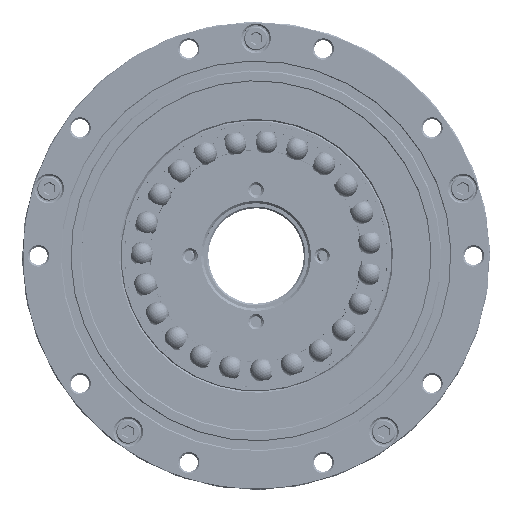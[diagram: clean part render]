
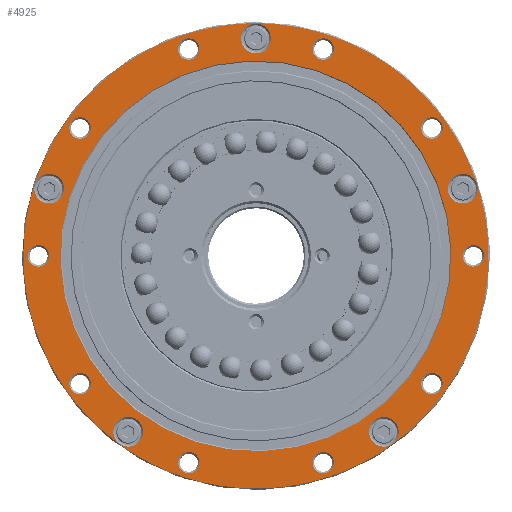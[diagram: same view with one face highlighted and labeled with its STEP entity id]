
A CAD part, top view. The second image highlights one B-rep face of the part: STEP entity #4925.
In plain terms, the highlighted planar face has unit normal (0, 0, 1).
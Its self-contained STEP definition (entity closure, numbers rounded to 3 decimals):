
#4354=PLANE('',#15423);
#4925=ADVANCED_FACE('',(#6135,#6136,#6137,#6138,#6139,#6140,#6141,#6142,
#6143,#6144,#6145,#6146,#6147,#6148,#6149,#6150,#6151),#4354,.T.);
#6135=FACE_BOUND('',#7137,.T.);
#6136=FACE_BOUND('',#7138,.T.);
#6137=FACE_BOUND('',#7139,.T.);
#6138=FACE_BOUND('',#7140,.T.);
#6139=FACE_BOUND('',#7141,.T.);
#6140=FACE_BOUND('',#7142,.T.);
#6141=FACE_BOUND('',#7143,.T.);
#6142=FACE_BOUND('',#7144,.T.);
#6143=FACE_BOUND('',#7145,.T.);
#6144=FACE_BOUND('',#7146,.T.);
#6145=FACE_BOUND('',#7147,.T.);
#6146=FACE_BOUND('',#7148,.T.);
#6147=FACE_BOUND('',#7149,.T.);
#6148=FACE_BOUND('',#7150,.T.);
#6149=FACE_BOUND('',#7151,.T.);
#6150=FACE_BOUND('',#7152,.T.);
#6151=FACE_BOUND('',#7153,.T.);
#7137=EDGE_LOOP('',(#9092));
#7138=EDGE_LOOP('',(#9093));
#7139=EDGE_LOOP('',(#9094));
#7140=EDGE_LOOP('',(#9095));
#7141=EDGE_LOOP('',(#9096));
#7142=EDGE_LOOP('',(#9097));
#7143=EDGE_LOOP('',(#9098));
#7144=EDGE_LOOP('',(#9099));
#7145=EDGE_LOOP('',(#9100));
#7146=EDGE_LOOP('',(#9101));
#7147=EDGE_LOOP('',(#9102));
#7148=EDGE_LOOP('',(#9103));
#7149=EDGE_LOOP('',(#9104));
#7150=EDGE_LOOP('',(#9105));
#7151=EDGE_LOOP('',(#9106));
#7152=EDGE_LOOP('',(#9107));
#7153=EDGE_LOOP('',(#9108));
#9092=ORIENTED_EDGE('',*,*,#13095,.T.);
#9093=ORIENTED_EDGE('',*,*,#13096,.T.);
#9094=ORIENTED_EDGE('',*,*,#13097,.T.);
#9095=ORIENTED_EDGE('',*,*,#13098,.T.);
#9096=ORIENTED_EDGE('',*,*,#13099,.T.);
#9097=ORIENTED_EDGE('',*,*,#13100,.T.);
#9098=ORIENTED_EDGE('',*,*,#13101,.T.);
#9099=ORIENTED_EDGE('',*,*,#13102,.T.);
#9100=ORIENTED_EDGE('',*,*,#13103,.T.);
#9101=ORIENTED_EDGE('',*,*,#13104,.T.);
#9102=ORIENTED_EDGE('',*,*,#13105,.T.);
#9103=ORIENTED_EDGE('',*,*,#13106,.T.);
#9104=ORIENTED_EDGE('',*,*,#13107,.T.);
#9105=ORIENTED_EDGE('',*,*,#13108,.T.);
#9106=ORIENTED_EDGE('',*,*,#13109,.T.);
#9107=ORIENTED_EDGE('',*,*,#13110,.T.);
#9108=ORIENTED_EDGE('',*,*,#13111,.T.);
#11681=VERTEX_POINT('',#99385);
#11682=VERTEX_POINT('',#99387);
#11683=VERTEX_POINT('',#99389);
#11684=VERTEX_POINT('',#99391);
#11685=VERTEX_POINT('',#99393);
#11686=VERTEX_POINT('',#99395);
#11687=VERTEX_POINT('',#99397);
#11688=VERTEX_POINT('',#99399);
#11689=VERTEX_POINT('',#99401);
#11690=VERTEX_POINT('',#99403);
#11691=VERTEX_POINT('',#99405);
#11692=VERTEX_POINT('',#99407);
#11693=VERTEX_POINT('',#99409);
#11694=VERTEX_POINT('',#99411);
#11695=VERTEX_POINT('',#99413);
#11696=VERTEX_POINT('',#99415);
#11697=VERTEX_POINT('',#99417);
#13095=EDGE_CURVE('',#11681,#11681,#14433,.T.);
#13096=EDGE_CURVE('',#11682,#11682,#14434,.T.);
#13097=EDGE_CURVE('',#11683,#11683,#14435,.T.);
#13098=EDGE_CURVE('',#11684,#11684,#14436,.T.);
#13099=EDGE_CURVE('',#11685,#11685,#14437,.T.);
#13100=EDGE_CURVE('',#11686,#11686,#14438,.T.);
#13101=EDGE_CURVE('',#11687,#11687,#14439,.T.);
#13102=EDGE_CURVE('',#11688,#11688,#14440,.T.);
#13103=EDGE_CURVE('',#11689,#11689,#14441,.T.);
#13104=EDGE_CURVE('',#11690,#11690,#14442,.T.);
#13105=EDGE_CURVE('',#11691,#11691,#14443,.T.);
#13106=EDGE_CURVE('',#11692,#11692,#14444,.T.);
#13107=EDGE_CURVE('',#11693,#11693,#14445,.T.);
#13108=EDGE_CURVE('',#11694,#11694,#14446,.T.);
#13109=EDGE_CURVE('',#11695,#11695,#14447,.T.);
#13110=EDGE_CURVE('',#11696,#11696,#14448,.T.);
#13111=EDGE_CURVE('',#11697,#11697,#14449,.T.);
#14433=CIRCLE('',#15406,4.5);
#14434=CIRCLE('',#15407,4.5);
#14435=CIRCLE('',#15408,4.5);
#14436=CIRCLE('',#15409,4.5);
#14437=CIRCLE('',#15410,3.25);
#14438=CIRCLE('',#15411,3.25);
#14439=CIRCLE('',#15412,3.25);
#14440=CIRCLE('',#15413,3.25);
#14441=CIRCLE('',#15414,3.25);
#14442=CIRCLE('',#15415,3.25);
#14443=CIRCLE('',#15416,3.25);
#14444=CIRCLE('',#15417,3.25);
#14445=CIRCLE('',#15418,3.25);
#14446=CIRCLE('',#15419,4.5);
#14447=CIRCLE('',#15420,3.25);
#14448=CIRCLE('',#15421,59.3);
#14449=CIRCLE('',#15422,70.6);
#15406=AXIS2_PLACEMENT_3D('',#99384,#17508,#17509);
#15407=AXIS2_PLACEMENT_3D('',#99386,#17510,#17511);
#15408=AXIS2_PLACEMENT_3D('',#99388,#17512,#17513);
#15409=AXIS2_PLACEMENT_3D('',#99390,#17514,#17515);
#15410=AXIS2_PLACEMENT_3D('',#99392,#17516,#17517);
#15411=AXIS2_PLACEMENT_3D('',#99394,#17518,#17519);
#15412=AXIS2_PLACEMENT_3D('',#99396,#17520,#17521);
#15413=AXIS2_PLACEMENT_3D('',#99398,#17522,#17523);
#15414=AXIS2_PLACEMENT_3D('',#99400,#17524,#17525);
#15415=AXIS2_PLACEMENT_3D('',#99402,#17526,#17527);
#15416=AXIS2_PLACEMENT_3D('',#99404,#17528,#17529);
#15417=AXIS2_PLACEMENT_3D('',#99406,#17530,#17531);
#15418=AXIS2_PLACEMENT_3D('',#99408,#17532,#17533);
#15419=AXIS2_PLACEMENT_3D('',#99410,#17534,#17535);
#15420=AXIS2_PLACEMENT_3D('',#99412,#17536,#17537);
#15421=AXIS2_PLACEMENT_3D('',#99414,#17538,#17539);
#15422=AXIS2_PLACEMENT_3D('',#99416,#17540,#17541);
#15423=AXIS2_PLACEMENT_3D('',#99418,#17542,#17543);
#17508=DIRECTION('',(0.,0.,-1.));
#17509=DIRECTION('',(1.,0.,0.));
#17510=DIRECTION('',(0.,0.,-1.));
#17511=DIRECTION('',(1.,0.,0.));
#17512=DIRECTION('',(0.,0.,-1.));
#17513=DIRECTION('',(1.,0.,0.));
#17514=DIRECTION('',(0.,0.,-1.));
#17515=DIRECTION('',(1.,0.,0.));
#17516=DIRECTION('',(0.,0.,-1.));
#17517=DIRECTION('',(1.,0.,0.));
#17518=DIRECTION('',(0.,0.,-1.));
#17519=DIRECTION('',(1.,0.,0.));
#17520=DIRECTION('',(0.,0.,-1.));
#17521=DIRECTION('',(1.,0.,0.));
#17522=DIRECTION('',(0.,0.,-1.));
#17523=DIRECTION('',(1.,0.,0.));
#17524=DIRECTION('',(0.,0.,-1.));
#17525=DIRECTION('',(1.,0.,0.));
#17526=DIRECTION('',(0.,0.,-1.));
#17527=DIRECTION('',(1.,0.,0.));
#17528=DIRECTION('',(0.,0.,-1.));
#17529=DIRECTION('',(1.,0.,0.));
#17530=DIRECTION('',(0.,0.,-1.));
#17531=DIRECTION('',(1.,0.,0.));
#17532=DIRECTION('',(0.,0.,-1.));
#17533=DIRECTION('',(1.,0.,0.));
#17534=DIRECTION('',(0.,0.,-1.));
#17535=DIRECTION('',(1.,0.,0.));
#17536=DIRECTION('',(0.,0.,-1.));
#17537=DIRECTION('',(1.,0.,0.));
#17538=DIRECTION('',(0.,0.,-1.));
#17539=DIRECTION('',(1.,0.,0.));
#17540=DIRECTION('',(0.,0.,1.));
#17541=DIRECTION('',(1.,0.,0.));
#17542=DIRECTION('',(0.,0.,1.));
#17543=DIRECTION('',(1.,0.,0.));
#99384=CARTESIAN_POINT('',(38.794,-53.395,0.));
#99385=CARTESIAN_POINT('',(43.294,-53.395,0.));
#99386=CARTESIAN_POINT('',(-38.794,-53.395,0.));
#99387=CARTESIAN_POINT('',(-34.294,-53.395,0.));
#99388=CARTESIAN_POINT('',(-62.77,20.395,0.));
#99389=CARTESIAN_POINT('',(-58.27,20.395,0.));
#99390=CARTESIAN_POINT('',(0.,66.,0.));
#99391=CARTESIAN_POINT('',(4.5,66.,0.));
#99392=CARTESIAN_POINT('',(53.395,-38.794,0.));
#99393=CARTESIAN_POINT('',(56.645,-38.794,0.));
#99394=CARTESIAN_POINT('',(20.395,-62.77,0.));
#99395=CARTESIAN_POINT('',(23.645,-62.77,0.));
#99396=CARTESIAN_POINT('',(-20.395,-62.77,0.));
#99397=CARTESIAN_POINT('',(-17.145,-62.77,0.));
#99398=CARTESIAN_POINT('',(-53.395,-38.794,0.));
#99399=CARTESIAN_POINT('',(-50.145,-38.794,0.));
#99400=CARTESIAN_POINT('',(-66.,0.,0.));
#99401=CARTESIAN_POINT('',(-62.75,0.,0.));
#99402=CARTESIAN_POINT('',(-53.395,38.794,0.));
#99403=CARTESIAN_POINT('',(-50.145,38.794,0.));
#99404=CARTESIAN_POINT('',(-20.395,62.77,0.));
#99405=CARTESIAN_POINT('',(-17.145,62.77,0.));
#99406=CARTESIAN_POINT('',(20.395,62.77,0.));
#99407=CARTESIAN_POINT('',(23.645,62.77,0.));
#99408=CARTESIAN_POINT('',(53.395,38.794,0.));
#99409=CARTESIAN_POINT('',(56.645,38.794,0.));
#99410=CARTESIAN_POINT('',(62.77,20.395,0.));
#99411=CARTESIAN_POINT('',(67.27,20.395,0.));
#99412=CARTESIAN_POINT('',(66.,0.,0.));
#99413=CARTESIAN_POINT('',(69.25,0.,0.));
#99414=CARTESIAN_POINT('',(0.,0.,0.));
#99415=CARTESIAN_POINT('',(59.3,0.,0.));
#99416=CARTESIAN_POINT('',(0.,0.,0.));
#99417=CARTESIAN_POINT('',(70.6,0.,0.));
#99418=CARTESIAN_POINT('',(0.,0.,0.));
